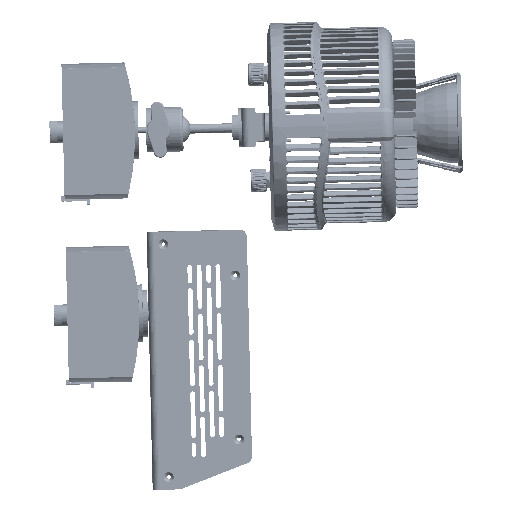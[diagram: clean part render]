
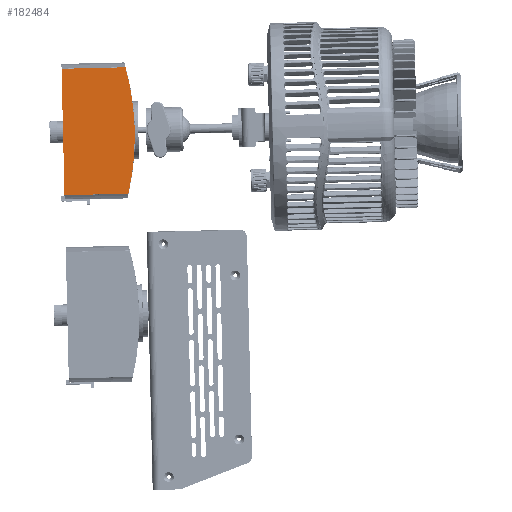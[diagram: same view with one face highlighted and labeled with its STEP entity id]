
A CAD part, left-side view. The second image highlights one B-rep face of the part: STEP entity #182484.
In plain terms, the highlighted planar face has unit normal (-1, 0, -0.003) as drawn and (0, 0, -1) by its records, which use the part's own axes.
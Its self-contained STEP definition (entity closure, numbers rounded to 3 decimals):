
#7428 = DIRECTION ( 'NONE',  ( 0., 0., 1. ) ) ;
#10972 = DIRECTION ( 'NONE',  ( 0., 1., 0. ) ) ;
#12420 = VERTEX_POINT ( 'NONE', #227987 ) ;
#15838 = CARTESIAN_POINT ( 'NONE',  ( 1.808, -25.39, -18.5 ) ) ;
#16668 = DIRECTION ( 'NONE',  ( 0., -1., 0. ) ) ;
#23894 = LINE ( 'NONE', #26631, #30308 ) ;
#26631 = CARTESIAN_POINT ( 'NONE',  ( -40.428, 141.025, -18.5 ) ) ;
#30308 = VECTOR ( 'NONE', #10972, 1000. ) ;
#30425 = CARTESIAN_POINT ( 'NONE',  ( -0.639, -25.452, -18.5 ) ) ;
#32450 = LINE ( 'NONE', #237611, #72790 ) ;
#36421 = EDGE_CURVE ( 'NONE', #37688, #12420, #131806, .T. ) ;
#36688 = CARTESIAN_POINT ( 'NONE',  ( 0.027, -25.498, -18.5 ) ) ;
#37688 = VERTEX_POINT ( 'NONE', #131350 ) ;
#39427 = CARTESIAN_POINT ( 'NONE',  ( 1.696, -25.393, -18.5 ) ) ;
#43631 = EDGE_CURVE ( 'NONE', #90918, #46661, #32450, .T. ) ;
#44066 = ORIENTED_EDGE ( 'NONE', *, *, #96821, .T. ) ;
#46661 = VERTEX_POINT ( 'NONE', #80591 ) ;
#47911 = DIRECTION ( 'NONE',  ( 1., 0., 0. ) ) ;
#51804 = PLANE ( 'NONE',  #229923 ) ;
#56101 = CARTESIAN_POINT ( 'NONE',  ( 0., -25.5, -18.5 ) ) ;
#57400 = EDGE_CURVE ( 'NONE', #271010, #264719, #229659, .T. ) ;
#61596 = AXIS2_PLACEMENT_3D ( 'NONE', #114401, #178044, #47911 ) ;
#72790 = VECTOR ( 'NONE', #116995, 1000. ) ;
#76905 = CARTESIAN_POINT ( 'NONE',  ( 1.025, -25.427, -18.5 ) ) ;
#80591 = CARTESIAN_POINT ( 'NONE',  ( -40.428, 20.5, -18.5 ) ) ;
#82348 = CARTESIAN_POINT ( 'NONE',  ( 0.758, -25.444, -18.5 ) ) ;
#90918 = VERTEX_POINT ( 'NONE', #255270 ) ;
#92179 = CARTESIAN_POINT ( 'NONE',  ( -1.92, -25.389, -18.5 ) ) ;
#93965 = ORIENTED_EDGE ( 'NONE', *, *, #36421, .T. ) ;
#96821 = EDGE_CURVE ( 'NONE', #90918, #242569, #162192, .T. ) ;
#100434 = CARTESIAN_POINT ( 'NONE',  ( 1.584, -25.398, -18.5 ) ) ;
#105227 = VECTOR ( 'NONE', #16668, 1000. ) ;
#114401 = CARTESIAN_POINT ( 'NONE',  ( 0., 141.025, -18.5 ) ) ;
#116354 = DIRECTION ( 'NONE',  ( 1., 0., 0. ) ) ;
#116995 = DIRECTION ( 'NONE',  ( -1., 0., 0. ) ) ;
#117696 = CARTESIAN_POINT ( 'NONE',  ( -1.279, -25.41, -18.5 ) ) ;
#119066 = CARTESIAN_POINT ( 'NONE',  ( -1.92, -25.389, -18.5 ) ) ;
#125587 = EDGE_CURVE ( 'NONE', #242569, #37688, #131786, .T. ) ;
#126276 = ORIENTED_EDGE ( 'NONE', *, *, #177074, .T. ) ;
#131350 = CARTESIAN_POINT ( 'NONE',  ( 1.92, -25.389, -18.5 ) ) ;
#131786 = CIRCLE ( 'NONE', #247000, 166.425 ) ;
#131806 = B_SPLINE_CURVE_WITH_KNOTS ( 'NONE', 3,
 ( #187633, #15838, #39427, #100434, #141915, #143281, #76905, #82348, #162723, #227834, #247276, #272164, #36688, #186270, #270816, #56101 ),
 .UNSPECIFIED., .F., .F.,
 ( 4, 3, 3, 3, 3, 4 ),
 ( 0., 0., 0.001, 0.002, 0.002, 0.002 ),
 .UNSPECIFIED. ) ;
#135415 = CARTESIAN_POINT ( 'NONE',  ( 40.428, -20.415, -18.5 ) ) ;
#141372 = CARTESIAN_POINT ( 'NONE',  ( 40.428, -20.5, -18.5 ) ) ;
#141915 = CARTESIAN_POINT ( 'NONE',  ( 1.397, -25.405, -18.5 ) ) ;
#142647 = ORIENTED_EDGE ( 'NONE', *, *, #125587, .T. ) ;
#143281 = CARTESIAN_POINT ( 'NONE',  ( 1.211, -25.415, -18.5 ) ) ;
#159448 = ORIENTED_EDGE ( 'NONE', *, *, #43631, .F. ) ;
#162192 = LINE ( 'NONE', #141372, #105227 ) ;
#162723 = CARTESIAN_POINT ( 'NONE',  ( 0.492, -25.463, -18.5 ) ) ;
#177074 = EDGE_CURVE ( 'NONE', #12420, #271010, #239182, .T. ) ;
#178044 = DIRECTION ( 'NONE',  ( 0., 0., -1. ) ) ;
#182484 = ADVANCED_FACE ( 'NONE', ( #262429 ), #51804, .F. ) ;
#186270 = CARTESIAN_POINT ( 'NONE',  ( 0.018, -25.499, -18.5 ) ) ;
#187633 = CARTESIAN_POINT ( 'NONE',  ( 1.92, -25.389, -18.5 ) ) ;
#189948 = ORIENTED_EDGE ( 'NONE', *, *, #57400, .T. ) ;
#190269 = ORIENTED_EDGE ( 'NONE', *, *, #267924, .T. ) ;
#200843 = CARTESIAN_POINT ( 'NONE',  ( -1.599, -25.393, -18.5 ) ) ;
#218076 = CARTESIAN_POINT ( 'NONE',  ( 0., 141.025, -18.5 ) ) ;
#227834 = CARTESIAN_POINT ( 'NONE',  ( 0.227, -25.483, -18.5 ) ) ;
#227987 = CARTESIAN_POINT ( 'NONE',  ( 0., -25.5, -18.5 ) ) ;
#229659 = CIRCLE ( 'NONE', #61596, 166.425 ) ;
#229923 = AXIS2_PLACEMENT_3D ( 'NONE', #218076, #7428, #241622 ) ;
#237611 = CARTESIAN_POINT ( 'NONE',  ( -40.5, 20.5, -18.5 ) ) ;
#239182 = B_SPLINE_CURVE_WITH_KNOTS ( 'NONE', 3,
 ( #267326, #243811, #30425, #117696, #200843, #119066 ),
 .UNSPECIFIED., .F., .F.,
 ( 4, 2, 4 ),
 ( 0., 0.001, 0.002 ),
 .UNSPECIFIED. ) ;
#241622 = DIRECTION ( 'NONE',  ( 1., 0., 0. ) ) ;
#242569 = VERTEX_POINT ( 'NONE', #135415 ) ;
#243811 = CARTESIAN_POINT ( 'NONE',  ( -0.32, -25.476, -18.5 ) ) ;
#247000 = AXIS2_PLACEMENT_3D ( 'NONE', #257747, #259104, #116354 ) ;
#247276 = CARTESIAN_POINT ( 'NONE',  ( 0.16, -25.488, -18.5 ) ) ;
#255270 = CARTESIAN_POINT ( 'NONE',  ( 40.428, 20.5, -18.5 ) ) ;
#257747 = CARTESIAN_POINT ( 'NONE',  ( 0., 141.025, -18.5 ) ) ;
#259104 = DIRECTION ( 'NONE',  ( 0., 0., -1. ) ) ;
#262429 = FACE_OUTER_BOUND ( 'NONE', #266942, .T. ) ;
#264719 = VERTEX_POINT ( 'NONE', #274152 ) ;
#266942 = EDGE_LOOP ( 'NONE', ( #189948, #190269, #159448, #44066, #142647, #93965, #126276 ) ) ;
#267326 = CARTESIAN_POINT ( 'NONE',  ( 0., -25.5, -18.5 ) ) ;
#267924 = EDGE_CURVE ( 'NONE', #264719, #46661, #23894, .T. ) ;
#270816 = CARTESIAN_POINT ( 'NONE',  ( 0.009, -25.499, -18.5 ) ) ;
#271010 = VERTEX_POINT ( 'NONE', #92179 ) ;
#272164 = CARTESIAN_POINT ( 'NONE',  ( 0.094, -25.493, -18.5 ) ) ;
#274152 = CARTESIAN_POINT ( 'NONE',  ( -40.428, -20.415, -18.5 ) ) ;
